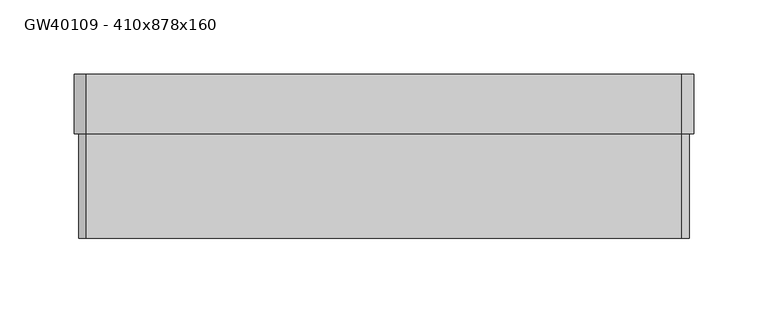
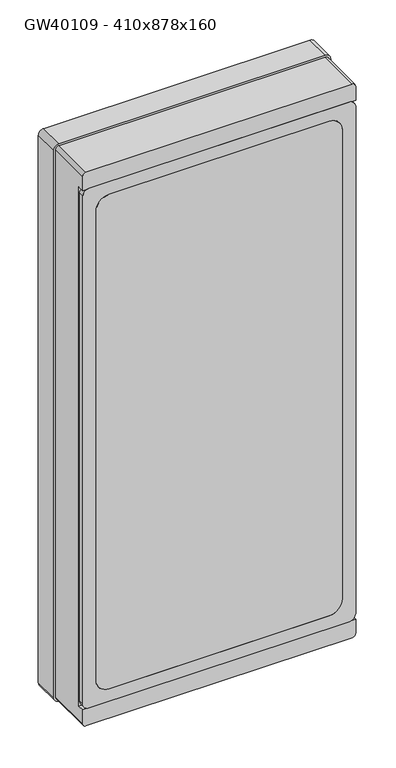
"""IFC4 building model written with IfcOpenShell, lengths in millimetres: proxy geometry, Building-ContenitoriParete-GEWISS-40CDK-CENTRALINI_IP65_4X : GW40109 - 410x878x160."""

import ifcopenshell
import ifcopenshell.guid

model = None  # the IFC model being written
_history = None  # IfcOwnerHistory: only IFC2X3 demands one
_inside = {}  # id of a spatial element -> (the spatial element, [elements in it])
_under = {}  # id of a project, library or spatial element -> (it, [spatial elements below it])
_declared = {}  # id of a project -> (the project, [libraries it declares])
_typed = {}  # id of a type object -> (the type object, [elements of that type])
_made_of = {}  # id of a material, layer set ... -> (it, [elements and type objects made of it])


def new_model(schema):
    """Start an empty IFC model of exactly this schema.

    Asked for "IFC4X3", IfcOpenShell would pick the latest addendum, in which some entities
    have other attributes; the version numbers below select the first issue.
    IFC2X3 requires an IfcOwnerHistory on every rooted entity: one is made here for all.
    """
    global model, _history
    if schema == "IFC4X3":
        model = ifcopenshell.file(schema_version=(4, 3, 0, 0))
    else:
        model = ifcopenshell.file(schema=schema)
    _inside.clear()
    _under.clear()
    _declared.clear()
    _typed.clear()
    _made_of.clear()
    _history = None
    if model.schema == "IFC2X3":
        org = make("IfcOrganization", Name="unknown")
        user = make(
            "IfcPersonAndOrganization",
            ThePerson=make("IfcPerson", FamilyName="unknown"),
            TheOrganization=org,
        )
        app = make(
            "IfcApplication",
            ApplicationDeveloper=org,
            Version="unknown",
            ApplicationFullName="unknown",
            ApplicationIdentifier="unknown",
        )
        _history = make(
            "IfcOwnerHistory",
            OwningUser=user,
            OwningApplication=app,
            ChangeAction="ADDED",
            CreationDate=0,
        )
    return model


def make(cls, **values):
    """One entity of the class cls with the attributes given. An attribute that is None is left unset."""
    return model.create_entity(
        cls, **{name: value for name, value in values.items() if value is not None}
    )


def rooted(cls, **values):
    """An entity with a GlobalId (a new one), such as an element, a storey or a relation."""
    return make(cls, GlobalId=ifcopenshell.guid.new(), OwnerHistory=_history, **values)


def si_unit(unit_type, name, prefix=None):
    """IfcSIUnit, for example si_unit("LENGTHUNIT", "METRE", prefix="MILLI")."""
    return make("IfcSIUnit", UnitType=unit_type, Prefix=prefix, Name=name)


def assignment(units):
    """IfcUnitAssignment: the units of a project."""
    return None if units is None else make("IfcUnitAssignment", Units=units)


def point(xyz):
    """IfcCartesianPoint."""
    return None if xyz is None else make("IfcCartesianPoint", Coordinates=xyz)


def direction(xyz):
    """IfcDirection."""
    return None if xyz is None else make("IfcDirection", DirectionRatios=xyz)


def frame(location, z_axis=None, x_axis=None):
    """IfcAxis2Placement3D, a coordinate frame: its origin and axes. An axis left out is left unset."""
    return make(
        "IfcAxis2Placement3D",
        Location=point(location),
        Axis=direction(z_axis),
        RefDirection=direction(x_axis),
    )


def frame_2d(location, x_axis=None):
    """IfcAxis2Placement2D, a coordinate frame in the plane: its origin and x axis."""
    return make(
        "IfcAxis2Placement2D", Location=point(location), RefDirection=direction(x_axis)
    )


def origin():
    """The frame at (0, 0, 0) with its axes left unset."""
    return frame((0.0, 0.0, 0.0))


def place(relative_to, where):
    """IfcLocalPlacement: puts the frame where relative to a parent placement (None: the world)."""
    return make(
        "IfcLocalPlacement", PlacementRelTo=relative_to, RelativePlacement=where
    )


def context(
    kind, dimensions, precision=None, world=None, true_north=None, identifier=None
):
    """IfcGeometricRepresentationContext, for example the 3D "Model" context."""
    return make(
        "IfcGeometricRepresentationContext",
        ContextIdentifier=identifier,
        ContextType=kind,
        CoordinateSpaceDimension=dimensions,
        Precision=precision,
        WorldCoordinateSystem=world,
        TrueNorth=true_north,
    )


def project(units=None, contexts=None):
    """IfcProject with its units and contexts."""
    return rooted(
        "IfcProject",
        Name="project",
        RepresentationContexts=contexts,
        UnitsInContext=assignment(units),
    )


def spatial(cls, under=None, at=None, **own):
    """A site, building, storey or space (cls), placed at a placement, below another one or the project."""
    s = rooted(cls, ObjectPlacement=at, **own)
    if under is not None:
        _under.setdefault(under.id(), (under, []))[1].append(s)
    return s


def polyline(points):
    """IfcPolyline through the points."""
    return make("IfcPolyline", Points=[point(p) for p in points])


def circle_curve(where, radius):
    """IfcCircle in the frame where."""
    return make("IfcCircle", Position=where, Radius=radius)


def trimmed(basis, trim1, trim2, sense, master):
    """IfcTrimmedCurve: the piece of a basis curve between two trims."""
    return make(
        "IfcTrimmedCurve",
        BasisCurve=basis,
        Trim1=trim1,
        Trim2=trim2,
        SenseAgreement=sense,
        MasterRepresentation=master,
    )


def segment(curve, same_sense, transition):
    """IfcCompositeCurveSegment."""
    return make(
        "IfcCompositeCurveSegment",
        Transition=transition,
        SameSense=same_sense,
        ParentCurve=curve,
    )


def composite_curve(segments, self_intersect=None):
    """IfcCompositeCurve: segments joined end to end."""
    return make("IfcCompositeCurve", Segments=segments, SelfIntersect=self_intersect)


def outline(outer, holes=None, kind="AREA"):
    """IfcArbitraryClosedProfileDef: a profile drawn as a closed curve; with holes, ...WithVoids."""
    if holes is None:
        return make("IfcArbitraryClosedProfileDef", ProfileType=kind, OuterCurve=outer)
    return make(
        "IfcArbitraryProfileDefWithVoids",
        ProfileType=kind,
        OuterCurve=outer,
        InnerCurves=holes,
    )


def extrude(swept, where, along, depth):
    """IfcExtrudedAreaSolid: the profile swept, set in the frame where, extruded along a direction by depth."""
    return make(
        "IfcExtrudedAreaSolid",
        SweptArea=swept,
        Position=where,
        ExtrudedDirection=direction(along),
        Depth=depth,
    )


def shape(context_of_items, identifier, shape_type, items):
    """IfcShapeRepresentation: the items that make up one representation, for example the "Body"."""
    return make(
        "IfcShapeRepresentation",
        ContextOfItems=context_of_items,
        RepresentationIdentifier=identifier,
        RepresentationType=shape_type,
        Items=items,
    )


def source(mapping_origin, context_of_items, identifier, shape_type, items):
    """IfcRepresentationMap: a shape defined once, which mapped items show again and again."""
    return make(
        "IfcRepresentationMap",
        MappingOrigin=mapping_origin,
        MappedRepresentation=shape(context_of_items, identifier, shape_type, items),
    )


def transform(
    local_origin,
    x_axis=None,
    y_axis=None,
    z_axis=None,
    scale=None,
    scale2=None,
    scale3=None,
    uniform=True,
):
    """IfcCartesianTransformationOperator3D, or its non-uniform kind. x_axis, y_axis, z_axis: its Axis1, 2, 3."""
    if uniform:
        return make(
            "IfcCartesianTransformationOperator3D",
            Axis1=direction(x_axis),
            Axis2=direction(y_axis),
            LocalOrigin=point(local_origin),
            Scale=scale,
            Axis3=direction(z_axis),
        )
    return make(
        "IfcCartesianTransformationOperator3DnonUniform",
        Axis1=direction(x_axis),
        Axis2=direction(y_axis),
        LocalOrigin=point(local_origin),
        Scale=scale,
        Axis3=direction(z_axis),
        Scale2=scale2,
        Scale3=scale3,
    )


def mapped(mapping_source, mapping_target):
    """IfcMappedItem: shows the shape of a source again, moved by a transform."""
    return make(
        "IfcMappedItem", MappingSource=mapping_source, MappingTarget=mapping_target
    )


def made_of(thing, what):
    """Note that an element or type object is made of a material, layer set ...; save() writes the relation."""
    if what is not None:
        _made_of.setdefault(what.id(), (what, []))[1].append(thing)
    return thing


def element(
    cls,
    number,
    at=None,
    inside=None,
    cuts=None,
    type_object=None,
    material=None,
    context=None,
    identifier="Body",
    shape_type=None,
    held_by="IfcProductDefinitionShape",
    body=None,
    shapes=None,
    **own,
):
    """One element of the class cls, such as IfcWall. Its Tag is "e" and its number.

    at: its placement. inside: the storey or other place that contains it. cuts: it is an
    opening in that element (IfcRelVoidsElement). A single representation is given by context,
    identifier, shape_type and body (its items); several are given by shapes. held_by: the class
    of the entity that holds the representations. save() writes the other relations.
    """
    e = rooted(cls, Tag="e%d" % number, ObjectPlacement=at, **own)
    if body is not None:
        shapes = [shape(context, identifier, shape_type, body)]
    if shapes is not None:
        e.Representation = make(held_by, Representations=shapes)
    if inside is not None:
        _inside.setdefault(inside.id(), (inside, []))[1].append(e)
    if cuts is not None:
        rooted(
            "IfcRelVoidsElement", RelatingBuildingElement=cuts, RelatedOpeningElement=e
        )
    if type_object is not None:
        _typed.setdefault(type_object.id(), (type_object, []))[1].append(e)
    return made_of(e, material)


def aggregate(whole, parts):
    """IfcRelAggregates: a whole, such as a stair, and the parts it consists of."""
    return rooted("IfcRelAggregates", RelatingObject=whole, RelatedObjects=parts)


def save(model, path):
    """Write the relations noted so far, then the file.

    IfcRelAggregates (storeys below a building ...), IfcRelContainedInSpatialStructure (elements
    in a storey), IfcRelDefinesByType, IfcRelAssociatesMaterial and IfcRelDeclares: one each for
    every whole, place, type object, material and project.
    """
    for whole, parts in _under.values():
        aggregate(whole, parts)
    for where, things in _inside.values():
        rooted(
            "IfcRelContainedInSpatialStructure",
            RelatedElements=things,
            RelatingStructure=where,
        )
    for kind, things in _typed.values():
        rooted("IfcRelDefinesByType", RelatedObjects=things, RelatingType=kind)
    for what, things in _made_of.values():
        rooted("IfcRelAssociatesMaterial", RelatedObjects=things, RelatingMaterial=what)
    for by, libraries in _declared.values():
        rooted("IfcRelDeclares", RelatingContext=by, RelatedDefinitions=libraries)
    model.write(path)


def plane_surface(at):
    """IfcPlane: the flat surface through the origin of the frame at, square to its z axis."""
    return make("IfcPlane", Position=at)


def cylinder_surface(at, radius):
    """IfcCylindricalSurface: all points at the distance radius from the z axis of the frame at."""
    return make("IfcCylindricalSurface", Position=at, Radius=radius)


def revolved_surface(curve, axis_point, axis_direction):
    """IfcSurfaceOfRevolution: the curve turned about the line through axis_point along axis_direction."""
    return make(
        "IfcSurfaceOfRevolution",
        SweptCurve=make("IfcArbitraryOpenProfileDef", ProfileType="CURVE", Curve=curve),
        AxisPosition=make("IfcAxis1Placement", Location=point(axis_point), Axis=direction(axis_direction)),
    )


def advanced_brep(points, edges, surfaces, faces):
    """IfcAdvancedBrep: a solid bounded by faces that lie on surfaces and meet in shared edges.

    An edge is (start, end): straight between two places in points (the first is 0);
    or (start, end, curve); or (start, end, curve, False) where it runs against its curve.
    A face is (place in surfaces, loops), or (place, loops, False) where it looks against
    its surface's normal. A loop lists edges by number (the first is 1), with a minus sign
    where the edge is run from its end to its start. The first loop is the outer one.
    """
    corners = [point(p) for p in points]
    vertices = [make("IfcVertexPoint", VertexGeometry=c) for c in corners]
    made = []
    for start, end, *more in edges:
        made.append(
            make(
                "IfcEdgeCurve",
                EdgeStart=vertices[start],
                EdgeEnd=vertices[end],
                EdgeGeometry=more[0] if more else make("IfcPolyline", Points=[corners[start], corners[end]]),
                SameSense=more[1] if len(more) > 1 else True,
            )
        )
    hull = []
    for where, loops, *sense in faces:
        bounds = []
        for j, loop in enumerate(loops):
            ring = [make("IfcOrientedEdge", EdgeElement=made[abs(k) - 1], Orientation=k > 0) for k in loop]
            bounds.append(
                make(
                    "IfcFaceOuterBound" if j == 0 else "IfcFaceBound",
                    Bound=make("IfcEdgeLoop", EdgeList=ring),
                    Orientation=True,
                )
            )
        hull.append(make("IfcAdvancedFace", Bounds=bounds, FaceSurface=surfaces[where], SameSense=sense[0] if sense else True))
    return make("IfcAdvancedBrep", Outer=make("IfcClosedShell", CfsFaces=hull))


def gw40109_410x878x160_de583994(model_context):
    return source(origin(), model_context, "Body", "SolidModel", [
        extrude(outline(composite_curve([segment(trimmed(circle_curve(frame_2d((1011.3733724, -40.3733724)), 19.6266276), [point((1031.0, -40.3733724))], [point((1011.3733724, -60.0))], False, "CARTESIAN"), True, "CONTINUOUS"), segment(polyline([(1011.3733724, -60.0), (266.6266276, -60.0)]), True, "CONTINUOUS"), segment(trimmed(circle_curve(frame_2d((266.6266276, -40.3733724)), 19.6266276), [point((266.6266276, -60.0))], [point((247.0, -40.3733724))], False, "CARTESIAN"), True, "CONTINUOUS"), segment(polyline([(247.0, -40.3733724), (247.0, 290.3733724)]), True, "CONTINUOUS"), segment(trimmed(circle_curve(frame_2d((266.6266276, 290.3733724)), 19.6266276), [point((247.0, 290.3733724))], [point((266.6266276, 310.0))], False, "CARTESIAN"), True, "CONTINUOUS"), segment(polyline([(266.6266276, 310.0), (1011.3733724, 310.0)]), True, "CONTINUOUS"), segment(trimmed(circle_curve(frame_2d((1011.3733724, 290.3733724)), 19.6266276), [point((1011.3733724, 310.0))], [point((1031.0, 290.3733724))], False, "CARTESIAN"), True, "CONTINUOUS"), segment(polyline([(1031.0, 290.3733724), (1031.0, -40.3733724)]), True, "CONTINUOUS")], self_intersect=False)), frame((0.0, -165.0, 0.0), z_axis=(0.0, 1.0, 0.0), x_axis=(0.0, 0.0, 1.0)), (0.0, 0.0, 1.0), 8.0),
        extrude(outline(composite_curve([segment(polyline([(1042.0809704, -80.0), (236.5623013, -80.0)]), True, "CONTINUOUS"), segment(trimmed(circle_curve(frame_2d((236.7791514, -70.2214952)), 9.780909), [point((236.5623013, -80.0))], [point((227.0, -70.4069096))], False, "CARTESIAN"), True, "CONTINUOUS"), segment(polyline([(227.0, -70.4069096), (227.0, 320.4151612)]), True, "CONTINUOUS"), segment(trimmed(circle_curve(frame_2d((236.775005, 320.2255854)), 9.7768431), [point((227.0, 320.4151612))], [point((236.5571034, 330.0))], False, "CARTESIAN"), True, "CONTINUOUS"), segment(polyline([(236.5571034, 330.0), (1041.9353881, 330.0)]), True, "CONTINUOUS"), segment(trimmed(circle_curve(frame_2d((1041.1918726, 320.2188831)), 9.8093355), [point((1041.9353881, 330.0))], [point((1051.0, 320.3728351))], False, "CARTESIAN"), True, "CONTINUOUS"), segment(polyline([(1051.0, 320.3728351), (1051.0, -70.379739)]), True, "CONTINUOUS"), segment(trimmed(circle_curve(frame_2d((1041.1876797, -70.2272359)), 9.8135053), [point((1051.0, -70.379739))], [point((1042.0809704, -80.0))], False, "CARTESIAN"), True, "CONTINUOUS")], self_intersect=False), holes=[composite_curve([segment(trimmed(circle_curve(frame_2d((1011.3733724, -40.3733724)), 19.6266276), [point((1011.3733724, -60.0))], [point((1031.0, -40.3733724))], True, "CARTESIAN"), True, "CONTINUOUS"), segment(polyline([(1031.0, -40.3733724), (1031.0, 290.3733724)]), True, "CONTINUOUS"), segment(trimmed(circle_curve(frame_2d((1011.3733724, 290.3733724)), 19.6266276), [point((1031.0, 290.3733724))], [point((1011.3733724, 310.0))], True, "CARTESIAN"), True, "CONTINUOUS"), segment(polyline([(1011.3733724, 310.0), (266.6266276, 310.0)]), True, "CONTINUOUS"), segment(trimmed(circle_curve(frame_2d((266.6266276, 290.3733724)), 19.6266276), [point((266.6266276, 310.0))], [point((247.0, 290.3733724))], True, "CARTESIAN"), True, "CONTINUOUS"), segment(polyline([(247.0, 290.3733724), (247.0, -40.3733724)]), True, "CONTINUOUS"), segment(trimmed(circle_curve(frame_2d((266.6266276, -40.3733724)), 19.6266276), [point((247.0, -40.3733724))], [point((266.6266276, -60.0))], True, "CARTESIAN"), True, "CONTINUOUS"), segment(polyline([(266.6266276, -60.0), (1011.3733724, -60.0)]), True, "CONTINUOUS")], self_intersect=False)]), frame((0.0, -165.0, 0.0), z_axis=(0.0, 1.0, 0.0), x_axis=(0.0, 0.0, 1.0)), (0.0, 0.0, 1.0), 8.0),
        extrude(outline(polyline([(1038.7618764, -62.8522893), (242.2618764, -62.8522893), (242.2618764, 312.8522893), (1038.7618764, 312.8522893), (1038.7618764, -62.8522893)]), holes=[polyline([(880.0, -33.0), (925.6623342, -33.0), (925.6623342, 283.0), (880.0, 283.0), (880.0, -33.0)]), polyline([(705.0, -33.0), (751.0, -33.0), (751.0, 283.0), (705.0, 283.0), (705.0, -33.0)]), polyline([(530.0, -33.0), (576.0, -33.0), (576.0, 283.0), (530.0, 283.0), (530.0, -33.0)]), polyline([(355.0, -33.0), (401.0, -33.0), (401.0, 283.0), (355.0, 283.0), (355.0, -33.0)])]), frame((0.0, -155.0, 0.0), z_axis=(0.0, 1.0, 0.0), x_axis=(0.0, 0.0, 1.0)), (0.0, 0.0, 1.0), 1.8332396),
        advanced_brep(
        [(-80.0, -165.0, 1051.0), (330.0, -165.0, 1051.0), (330.0, -165.0, 1073.2013422), (325.2013423, -165.0, 1077.9999999), (-75.2013428, -165.0, 1077.9999999), (-80.0, -165.0, 1073.2013426), (-75.2013425, -165.0, 200.0), (325.2013423, -165.0, 200.0), (330.0, -165.0, 204.7986577), (330.0, -165.0, 227.0), (-80.0, -165.0, 227.0), (-80.0, -165.0, 204.7986575), (-80.0, -155.0, 1051.0), (330.0, -155.0, 1051.0), (330.0, -155.0, 227.0), (330.0, -95.0, 204.7986577), (330.0, -95.0, 1073.2013422), (325.2013423, -95.0, 1077.9999999), (-75.2013428, -95.0, 1077.9999999), (-80.0, -95.0, 1073.2013426), (-80.0, -95.0, 204.7986575), (-80.0, -155.0, 227.0), (-75.2013425, -95.0, 200.0), (325.2013423, -95.0, 200.0), (-54.4460592, -155.0, 1040.7618764), (304.4460592, -155.0, 1040.7618764), (314.8522893, -155.0, 1030.3556463), (314.8522893, -155.0, 250.6618764), (304.4522893, -155.0, 240.2618764), (-54.4522893, -155.0, 240.2618764), (-64.8522893, -155.0, 250.6618764), (-64.8522893, -155.0, 1030.3556463), (-54.4460592, -95.0, 1040.7618764), (304.4460592, -95.0, 1040.7618764), (314.8522893, -95.0, 1030.3556463), (314.8522893, -95.0, 250.6618764), (304.4522893, -95.0, 240.2618764), (-54.4522893, -95.0, 240.2618764), (-64.8522893, -95.0, 250.6618764), (-64.8522893, -95.0, 1030.3556463), (333.0, -55.0, 1073.2013423), (333.0, -55.0, 204.7986577), (325.2013423, -55.0, 197.0), (-75.2013425, -55.0, 197.0), (-83.0, -55.0, 204.7986575), (-83.0, -55.0, 1073.2013428), (-75.2013428, -55.0, 1081.0), (325.2013423, -55.0, 1081.0), (333.0, -95.0, 1073.2013423), (325.2013423, -95.0, 1081.0), (-75.2013428, -95.0, 1081.0), (-83.0, -95.0, 1073.2013428), (-83.0, -95.0, 204.7986575), (-75.2013425, -95.0, 197.0), (325.2013423, -95.0, 197.0), (333.0, -95.0, 204.7986577)],
        [
            (0, 1),
            (1, 2),
            (2, 3, circle_curve(frame((325.2013423, -165.0, 1073.2013422), z_axis=(0.0, -1.0, 0.0), x_axis=(1.0, 0.0, 0.0)), 4.7986577)),
            (3, 4),
            (4, 5, circle_curve(frame((-75.2013428, -165.0, 1073.2013426), z_axis=(0.0, -1.0, 0.0), x_axis=(1.0, 0.0, 0.0)), 4.7986572)),
            (5, 0),
            (6, 7),
            (7, 8, circle_curve(frame((325.2013423, -165.0, 204.7986577), z_axis=(0.0, -1.0, 0.0), x_axis=(1.0, 0.0, 0.0)), 4.7986577)),
            (8, 9),
            (9, 10),
            (10, 11),
            (11, 6, circle_curve(frame((-75.2013425, -165.0, 204.7986575), z_axis=(0.0, -1.0, 0.0), x_axis=(1.0, 0.0, 0.0)), 4.7986575)),
            (0, 12),
            (12, 13),
            (13, 1),
            (13, 14),
            (14, 9),
            (8, 15),
            (15, 16),
            (16, 2),
            (16, 17, circle_curve(frame((325.2013423, -95.0, 1073.2013422), z_axis=(0.0, -1.0, 0.0), x_axis=(1.0, 0.0, 0.0)), 4.7986577)),
            (17, 3),
            (17, 18),
            (18, 4),
            (18, 19, circle_curve(frame((-75.2013428, -95.0, 1073.2013426), z_axis=(0.0, -1.0, 0.0), x_axis=(1.0, 0.0, 0.0)), 4.7986572)),
            (19, 5),
            (19, 20),
            (20, 11),
            (10, 21),
            (21, 12),
            (6, 22),
            (22, 23),
            (23, 7),
            (23, 15, circle_curve(frame((325.2013423, -95.0, 204.7986577), z_axis=(0.0, -1.0, 0.0), x_axis=(1.0, 0.0, 0.0)), 4.7986577)),
            (14, 21),
            (20, 22, circle_curve(frame((-75.2013425, -95.0, 204.7986575), z_axis=(0.0, -1.0, 0.0), x_axis=(1.0, 0.0, 0.0)), 4.7986575)),
            (24, 25),
            (25, 26, circle_curve(frame((304.4460592, -155.0, 1030.3556463), z_axis=(0.0, 1.0, 0.0), x_axis=(1.0, 0.0, 0.0)), 10.40623)),
            (26, 27),
            (27, 28, circle_curve(frame((304.4522893, -155.0, 250.6618764), z_axis=(0.0, 1.0, 0.0), x_axis=(1.0, 0.0, 0.0)), 10.4)),
            (28, 29),
            (29, 30, circle_curve(frame((-54.4522893, -155.0, 250.6618764), z_axis=(0.0, 1.0, 0.0), x_axis=(1.0, 0.0, 0.0)), 10.4)),
            (30, 31),
            (31, 24, circle_curve(frame((-54.4460592, -155.0, 1030.3556463), z_axis=(0.0, 1.0, 0.0), x_axis=(1.0, 0.0, 0.0)), 10.40623)),
            (24, 32),
            (32, 33),
            (33, 25),
            (33, 34, circle_curve(frame((304.4460592, -95.0, 1030.3556463), z_axis=(0.0, 1.0, 0.0), x_axis=(1.0, 0.0, 0.0)), 10.40623)),
            (34, 26),
            (34, 35),
            (35, 27),
            (35, 36, circle_curve(frame((304.4522893, -95.0, 250.6618764), z_axis=(0.0, 1.0, 0.0), x_axis=(1.0, 0.0, 0.0)), 10.4)),
            (36, 28),
            (36, 37),
            (37, 29),
            (37, 38, circle_curve(frame((-54.4522893, -95.0, 250.6618764), z_axis=(0.0, 1.0, 0.0), x_axis=(1.0, 0.0, 0.0)), 10.4)),
            (38, 30),
            (38, 39),
            (39, 31),
            (39, 32, circle_curve(frame((-54.4460592, -95.0, 1030.3556463), z_axis=(0.0, 1.0, 0.0), x_axis=(1.0, 0.0, 0.0)), 10.40623)),
            (40, 41),
            (41, 42, circle_curve(frame((325.2013423, -55.0, 204.7986577), z_axis=(0.0, 1.0, 0.0), x_axis=(1.0, 0.0, 0.0)), 7.7986577)),
            (42, 43),
            (43, 44, circle_curve(frame((-75.2013425, -55.0, 204.7986575), z_axis=(0.0, 1.0, 0.0), x_axis=(1.0, 0.0, 0.0)), 7.7986575)),
            (44, 45),
            (45, 46, circle_curve(frame((-75.2013428, -55.0, 1073.2013428), z_axis=(0.0, 1.0, 0.0), x_axis=(1.0, 0.0, 0.0)), 7.7986572)),
            (46, 47),
            (47, 40, circle_curve(frame((325.2013423, -55.0, 1073.2013423), z_axis=(0.0, 1.0, 0.0), x_axis=(1.0, 0.0, 0.0)), 7.7986577)),
            (48, 49, circle_curve(frame((325.2013423, -95.0, 1073.2013423), z_axis=(0.0, -1.0, 0.0), x_axis=(1.0, 0.0, 0.0)), 7.7986577)),
            (49, 50),
            (50, 51, circle_curve(frame((-75.2013428, -95.0, 1073.2013428), z_axis=(0.0, -1.0, 0.0), x_axis=(1.0, 0.0, 0.0)), 7.7986572)),
            (51, 52),
            (52, 53, circle_curve(frame((-75.2013425, -95.0, 204.7986575), z_axis=(0.0, -1.0, 0.0), x_axis=(1.0, 0.0, 0.0)), 7.7986575)),
            (53, 54),
            (54, 55, circle_curve(frame((325.2013423, -95.0, 204.7986577), z_axis=(0.0, -1.0, 0.0), x_axis=(1.0, 0.0, 0.0)), 7.7986577)),
            (55, 48),
            (47, 49),
            (48, 40),
            (46, 50),
            (45, 51),
            (44, 52),
            (43, 53),
            (42, 54),
            (41, 55),
        ],
        [
            plane_surface(frame((330.0, -165.0, 1051.0), z_axis=(0.0, -1.0, 0.0), x_axis=(-1.0, 0.0, 0.0))),
            plane_surface(frame((-80.0, -95.0, 1051.0), z_axis=(0.0, 0.0, -1.0), x_axis=(0.0, -1.0, 0.0))),
            plane_surface(frame((330.0, -95.0, 1051.0), z_axis=(1.0, 0.0, -5.432298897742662e-12), x_axis=(0.0, -1.0, 0.0))),
            cylinder_surface(frame((325.2013423, -165.0, 1073.2013422), z_axis=(0.0, 1.0, 0.0), x_axis=(1.0, 0.0, 0.0)), 4.7986577),
            plane_surface(frame((325.2013423, -95.0, 1077.9999999), z_axis=(0.0, 0.0, 1.0), x_axis=(0.0, -1.0, 0.0))),
            cylinder_surface(frame((-75.2013428, -165.0, 1073.2013426), z_axis=(0.0, 1.0, 0.0), x_axis=(1.0, 0.0, 0.0)), 4.7986572),
            plane_surface(frame((-80.0, -95.0, 1073.2013426), z_axis=(-1.0, 0.0, 0.0), x_axis=(0.0, -1.0, 0.0))),
            plane_surface(frame((-75.2013425, -95.0, 200.0), z_axis=(0.0, 0.0, -1.0), x_axis=(0.0, -1.0, 0.0))),
            cylinder_surface(frame((325.2013423, 0.0, 204.7986577), z_axis=(0.0, 1.0, 0.0), x_axis=(1.0, 0.0, 0.0)), 4.7986577),
            plane_surface(frame((330.0, -95.0, 227.0), z_axis=(0.0, 0.0, 1.0), x_axis=(0.0, -1.0, 0.0))),
            cylinder_surface(frame((-75.2013425, 0.0, 204.7986575), z_axis=(0.0, 1.0, 0.0), x_axis=(1.0, 0.0, 0.0)), 4.7986575),
            plane_surface(frame((-80.0, -155.0, 1051.0), z_axis=(0.0, -1.0, 0.0), x_axis=(0.0, 0.0, 1.0))),
            plane_surface(frame((-54.4460592, -95.0, 1040.7618764), z_axis=(0.0, 0.0, -1.0), x_axis=(0.0, -1.0, 0.0))),
            revolved_surface(polyline([(314.8522892, -155.0, 1030.3556463), (314.8522892, -95.0, 1030.3556463)]), (304.4460592, 0.0, 1030.3556463), (0.0, -1.0, 0.0)),
            plane_surface(frame((314.8522893, -95.0, 1030.3556463), z_axis=(-1.0, 0.0, 0.0), x_axis=(0.0, -1.0, 0.0))),
            revolved_surface(polyline([(314.8522893, -155.0, 250.6618764), (314.8522893, -95.0, 250.6618764)]), (304.4522893, 0.0, 250.6618764), (0.0, -1.0, 0.0)),
            plane_surface(frame((304.4522893, -95.0, 240.2618764), z_axis=(0.0, 0.0, 1.0), x_axis=(0.0, -1.0, 0.0))),
            revolved_surface(polyline([(-44.0522893, -155.0, 250.6618764), (-44.0522893, -95.0, 250.6618764)]), (-54.4522893, 0.0, 250.6618764), (0.0, -1.0, 0.0)),
            plane_surface(frame((-64.8522893, -95.0, 250.6618764), z_axis=(1.0, 0.0, 0.0), x_axis=(0.0, -1.0, 0.0))),
            revolved_surface(polyline([(-44.0398292, -155.0, 1030.3556463), (-44.0398292, -95.0, 1030.3556463)]), (-54.4460592, 0.0, 1030.3556463), (0.0, -1.0, 0.0)),
            plane_surface(frame((333.0, -55.0, 1073.2013423), z_axis=(0.0, 1.0, 0.0), x_axis=(0.0, 0.0, 1.0))),
            plane_surface(frame((333.0, -95.0, 1073.2013423), z_axis=(0.0, -1.0, 0.0), x_axis=(0.0, 0.0, -1.0))),
            cylinder_surface(frame((325.2013423, -95.0, 1073.2013423), z_axis=(0.0, 1.0, 0.0), x_axis=(1.0, 0.0, 0.0)), 7.7986577),
            plane_surface(frame((325.2013423, -55.0, 1081.0), z_axis=(0.0, 0.0, 1.0), x_axis=(0.0, -1.0, 0.0))),
            cylinder_surface(frame((-75.2013428, -95.0, 1073.2013428), z_axis=(0.0, 1.0, 0.0), x_axis=(1.0, 0.0, 0.0)), 7.7986572),
            plane_surface(frame((-83.0, -55.0, 1073.2013428), z_axis=(-1.0, 0.0, 0.0), x_axis=(0.0, -1.0, 0.0))),
            cylinder_surface(frame((-75.2013425, -95.0, 204.7986575), z_axis=(0.0, 1.0, 0.0), x_axis=(1.0, 0.0, 0.0)), 7.7986575),
            plane_surface(frame((-75.2013425, -55.0, 197.0), z_axis=(0.0, 0.0, -1.0), x_axis=(0.0, -1.0, 0.0))),
            cylinder_surface(frame((325.2013423, -95.0, 204.7986577), z_axis=(0.0, 1.0, 0.0), x_axis=(1.0, 0.0, 0.0)), 7.7986577),
            plane_surface(frame((333.0, -55.0, 204.7986577), z_axis=(1.0, 0.0, 0.0), x_axis=(0.0, -1.0, 0.0))),
        ],
        [
            (0, [[1, 2, 3, 4, 5, 6]]),
            (0, [[7, 8, 9, 10, 11, 12]]),
            (1, [[13, 14, 15, -1]]),
            (2, [[-15, 16, 17, -9, 18, 19, 20, -2]]),
            (3, [[-20, 21, 22, -3]]),
            (4, [[-22, 23, 24, -4]]),
            (5, [[-24, 25, 26, -5]]),
            (6, [[-26, 27, 28, -11, 29, 30, -13, -6]]),
            (7, [[31, 32, 33, -7]]),
            (8, [[-33, 34, -18, -8]]),
            (9, [[-17, 35, -29, -10]]),
            (10, [[-28, 36, -31, -12]]),
            (11, [[-14, -30, -35, -16], [37, 38, 39, 40, 41, 42, 43, 44]]),
            (12, [[45, 46, 47, -37]]),
            (13, [[-47, 48, 49, -38]]),
            (14, [[-49, 50, 51, -39]]),
            (15, [[-51, 52, 53, -40]]),
            (16, [[-53, 54, 55, -41]]),
            (17, [[-55, 56, 57, -42]]),
            (18, [[-57, 58, 59, -43]]),
            (19, [[-59, 60, -45, -44]]),
            (20, [[61, 62, 63, 64, 65, 66, 67, 68]]),
            (21, [[-60, -58, -56, -54, -52, -50, -48, -46]]),
            (21, [[69, 70, 71, 72, 73, 74, 75, 76], [-34, -32, -36, -27, -25, -23, -21, -19]]),
            (22, [[77, -69, 78, -68]]),
            (23, [[79, -70, -77, -67]]),
            (24, [[80, -71, -79, -66]]),
            (25, [[81, -72, -80, -65]]),
            (26, [[82, -73, -81, -64]]),
            (27, [[83, -74, -82, -63]]),
            (28, [[84, -75, -83, -62]]),
            (29, [[-78, -76, -84, -61]]),
        ],
    ),
        extrude(outline(composite_curve([segment(polyline([(1040.7618764, 304.4460592), (1040.7618764, -54.4460592)]), True, "CONTINUOUS"), segment(trimmed(circle_curve(frame_2d((1030.3556463, -54.4460592)), 10.40623), [point((1040.7618764, -54.4460592))], [point((1030.3556463, -64.8522893))], False, "CARTESIAN"), True, "CONTINUOUS"), segment(polyline([(1030.3556463, -64.8522893), (250.6618764, -64.8522893)]), True, "CONTINUOUS"), segment(trimmed(circle_curve(frame_2d((250.6618764, -54.4522893)), 10.4), [point((250.6618764, -64.8522893))], [point((240.2618764, -54.4522893))], False, "CARTESIAN"), True, "CONTINUOUS"), segment(polyline([(240.2618764, -54.4522893), (240.2618764, 304.4522893)]), True, "CONTINUOUS"), segment(trimmed(circle_curve(frame_2d((250.6618764, 304.4522893)), 10.4), [point((240.2618764, 304.4522893))], [point((250.6618764, 314.8522893))], False, "CARTESIAN"), True, "CONTINUOUS"), segment(polyline([(250.6618764, 314.8522893), (1030.3556463, 314.8522893)]), True, "CONTINUOUS"), segment(trimmed(circle_curve(frame_2d((1030.3556463, 304.4460592)), 10.40623), [point((1030.3556463, 314.8522893))], [point((1040.7618764, 304.4460592))], False, "CARTESIAN"), True, "CONTINUOUS")], self_intersect=False), holes=[composite_curve([segment(polyline([(1030.3556463, 312.8522893), (250.6618764, 312.8522893)]), True, "CONTINUOUS"), segment(trimmed(circle_curve(frame_2d((250.6618764, 304.4522893)), 8.4), [point((250.6618764, 312.8522893))], [point((242.2618764, 304.4522893))], True, "CARTESIAN"), True, "CONTINUOUS"), segment(polyline([(242.2618764, 304.4522893), (242.2618764, -54.4522893)]), True, "CONTINUOUS"), segment(trimmed(circle_curve(frame_2d((250.6618764, -54.4522893)), 8.4), [point((242.2618764, -54.4522893))], [point((250.6618764, -62.8522893))], True, "CARTESIAN"), True, "CONTINUOUS"), segment(polyline([(250.6618764, -62.8522893), (1030.3556463, -62.8522893)]), True, "CONTINUOUS"), segment(trimmed(circle_curve(frame_2d((1030.3556463, -54.4460592)), 8.40623), [point((1030.3556463, -62.8522893))], [point((1038.7618764, -54.4460592))], True, "CARTESIAN"), True, "CONTINUOUS"), segment(polyline([(1038.7618764, -54.4460592), (1038.7618764, 304.4460592)]), True, "CONTINUOUS"), segment(trimmed(circle_curve(frame_2d((1030.3556463, 304.4460592)), 8.40623), [point((1038.7618764, 304.4460592))], [point((1030.3556463, 312.8522893))], True, "CARTESIAN"), True, "CONTINUOUS")], self_intersect=False)]), frame((0.0, -155.0, 0.0), z_axis=(0.0, 1.0, 0.0), x_axis=(0.0, 0.0, 1.0)), (0.0, 0.0, 1.0), 1.8332396),
    ])


if __name__ == "__main__":
    model = new_model("IFC4")
    model_context = context("Model", 3, world=origin())
    ifc_project = project(units=[si_unit("LENGTHUNIT", "METRE", prefix="MILLI")], contexts=[model_context])
    site = spatial("IfcSite", under=ifc_project)
    building = spatial("IfcBuilding", under=site)
    placement = place(None, origin())
    gw40109_410x878x160_shape = gw40109_410x878x160_de583994(model_context)
    element("IfcBuildingElementProxy", 1, Name="Building-ContenitoriParete-GEWISS-40CDK-CENTRALINI_IP65_4X : GW40109 - 410x878x160", ObjectType="Building-ContenitoriParete-GEWISS-40CDK-CENTRALINI_IP65_4X : GW40109 - 410x878x160", at=placement, inside=building, context=model_context, shape_type="MappedRepresentation", body=[
        mapped(gw40109_410x878x160_shape, transform((0.0, 0.0, 0.0), x_axis=(1.0, 0.0, 0.0), y_axis=(0.0, 1.0, 0.0), z_axis=(0.0, 0.0, 1.0))),
    ])
    save(model, "model.ifc")
